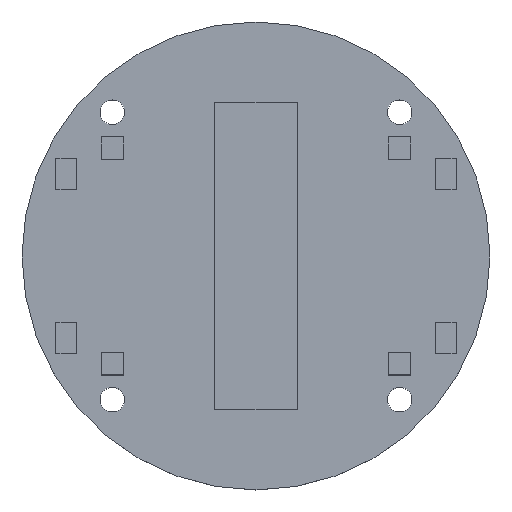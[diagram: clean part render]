
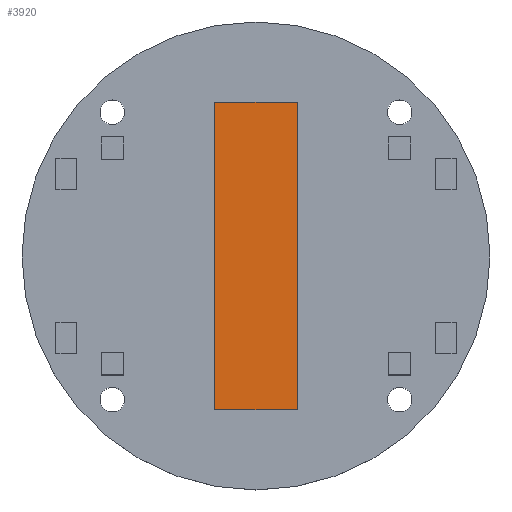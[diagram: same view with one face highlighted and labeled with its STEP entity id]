
A CAD part, top view. The second image highlights one B-rep face of the part: STEP entity #3920.
In plain terms, the highlighted planar face has unit normal (0, 0, 1).
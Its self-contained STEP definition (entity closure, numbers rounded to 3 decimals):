
#799 = PLANE('',#800);
#800 = AXIS2_PLACEMENT_3D('',#801,#802,#803);
#801 = CARTESIAN_POINT('',(-4.,-15.,1.79));
#802 = DIRECTION('',(0.,1.,0.));
#803 = DIRECTION('',(0.,0.,1.));
#825 = PLANE('',#826);
#826 = AXIS2_PLACEMENT_3D('',#827,#828,#829);
#827 = CARTESIAN_POINT('',(-4.,-15.,1.79));
#828 = DIRECTION('',(1.,0.,0.));
#829 = DIRECTION('',(0.,0.,1.));
#851 = PLANE('',#852);
#852 = AXIS2_PLACEMENT_3D('',#853,#854,#855);
#853 = CARTESIAN_POINT('',(-4.,15.,1.79));
#854 = DIRECTION('',(0.,1.,0.));
#855 = DIRECTION('',(0.,0.,1.));
#875 = PLANE('',#876);
#876 = AXIS2_PLACEMENT_3D('',#877,#878,#879);
#877 = CARTESIAN_POINT('',(4.,-15.,1.79));
#878 = DIRECTION('',(1.,0.,0.));
#879 = DIRECTION('',(0.,0.,1.));
#2558 = VERTEX_POINT('',#2559);
#2559 = CARTESIAN_POINT('',(4.,-15.,1.79));
#2580 = EDGE_CURVE('',#2581,#2558,#2583,.T.);
#2581 = VERTEX_POINT('',#2582);
#2582 = CARTESIAN_POINT('',(-4.,-15.,1.79));
#2583 = SURFACE_CURVE('',#2584,(#2588,#2595),.PCURVE_S1.);
#2584 = LINE('',#2585,#2586);
#2585 = CARTESIAN_POINT('',(-4.,-15.,1.79));
#2586 = VECTOR('',#2587,1.);
#2587 = DIRECTION('',(1.,0.,0.));
#2588 = PCURVE('',#799,#2589);
#2589 = DEFINITIONAL_REPRESENTATION('',(#2590),#2594);
#2590 = LINE('',#2591,#2592);
#2591 = CARTESIAN_POINT('',(0.,0.));
#2592 = VECTOR('',#2593,1.);
#2593 = DIRECTION('',(0.,1.));
#2594 = ( GEOMETRIC_REPRESENTATION_CONTEXT(2) 
PARAMETRIC_REPRESENTATION_CONTEXT() REPRESENTATION_CONTEXT('2D SPACE',''
  ) );
#2595 = PCURVE('',#2596,#2601);
#2596 = PLANE('',#2597);
#2597 = AXIS2_PLACEMENT_3D('',#2598,#2599,#2600);
#2598 = CARTESIAN_POINT('',(-4.,-15.,1.79));
#2599 = DIRECTION('',(0.,0.,1.));
#2600 = DIRECTION('',(1.,0.,0.));
#2601 = DEFINITIONAL_REPRESENTATION('',(#2602),#2606);
#2602 = LINE('',#2603,#2604);
#2603 = CARTESIAN_POINT('',(0.,0.));
#2604 = VECTOR('',#2605,1.);
#2605 = DIRECTION('',(1.,0.));
#2606 = ( GEOMETRIC_REPRESENTATION_CONTEXT(2) 
PARAMETRIC_REPRESENTATION_CONTEXT() REPRESENTATION_CONTEXT('2D SPACE',''
  ) );
#2634 = EDGE_CURVE('',#2558,#2635,#2637,.T.);
#2635 = VERTEX_POINT('',#2636);
#2636 = CARTESIAN_POINT('',(4.,15.,1.79));
#2637 = SURFACE_CURVE('',#2638,(#2642,#2649),.PCURVE_S1.);
#2638 = LINE('',#2639,#2640);
#2639 = CARTESIAN_POINT('',(4.,-15.,1.79));
#2640 = VECTOR('',#2641,1.);
#2641 = DIRECTION('',(0.,1.,0.));
#2642 = PCURVE('',#875,#2643);
#2643 = DEFINITIONAL_REPRESENTATION('',(#2644),#2648);
#2644 = LINE('',#2645,#2646);
#2645 = CARTESIAN_POINT('',(0.,0.));
#2646 = VECTOR('',#2647,1.);
#2647 = DIRECTION('',(0.,-1.));
#2648 = ( GEOMETRIC_REPRESENTATION_CONTEXT(2) 
PARAMETRIC_REPRESENTATION_CONTEXT() REPRESENTATION_CONTEXT('2D SPACE',''
  ) );
#2649 = PCURVE('',#2596,#2650);
#2650 = DEFINITIONAL_REPRESENTATION('',(#2651),#2655);
#2651 = LINE('',#2652,#2653);
#2652 = CARTESIAN_POINT('',(8.,0.));
#2653 = VECTOR('',#2654,1.);
#2654 = DIRECTION('',(0.,1.));
#2655 = ( GEOMETRIC_REPRESENTATION_CONTEXT(2) 
PARAMETRIC_REPRESENTATION_CONTEXT() REPRESENTATION_CONTEXT('2D SPACE',''
  ) );
#2683 = EDGE_CURVE('',#2684,#2635,#2686,.T.);
#2684 = VERTEX_POINT('',#2685);
#2685 = CARTESIAN_POINT('',(-4.,15.,1.79));
#2686 = SURFACE_CURVE('',#2687,(#2691,#2698),.PCURVE_S1.);
#2687 = LINE('',#2688,#2689);
#2688 = CARTESIAN_POINT('',(-4.,15.,1.79));
#2689 = VECTOR('',#2690,1.);
#2690 = DIRECTION('',(1.,0.,0.));
#2691 = PCURVE('',#851,#2692);
#2692 = DEFINITIONAL_REPRESENTATION('',(#2693),#2697);
#2693 = LINE('',#2694,#2695);
#2694 = CARTESIAN_POINT('',(0.,0.));
#2695 = VECTOR('',#2696,1.);
#2696 = DIRECTION('',(0.,1.));
#2697 = ( GEOMETRIC_REPRESENTATION_CONTEXT(2) 
PARAMETRIC_REPRESENTATION_CONTEXT() REPRESENTATION_CONTEXT('2D SPACE',''
  ) );
#2698 = PCURVE('',#2596,#2699);
#2699 = DEFINITIONAL_REPRESENTATION('',(#2700),#2704);
#2700 = LINE('',#2701,#2702);
#2701 = CARTESIAN_POINT('',(0.,30.));
#2702 = VECTOR('',#2703,1.);
#2703 = DIRECTION('',(1.,0.));
#2704 = ( GEOMETRIC_REPRESENTATION_CONTEXT(2) 
PARAMETRIC_REPRESENTATION_CONTEXT() REPRESENTATION_CONTEXT('2D SPACE',''
  ) );
#2732 = EDGE_CURVE('',#2581,#2684,#2733,.T.);
#2733 = SURFACE_CURVE('',#2734,(#2738,#2745),.PCURVE_S1.);
#2734 = LINE('',#2735,#2736);
#2735 = CARTESIAN_POINT('',(-4.,-15.,1.79));
#2736 = VECTOR('',#2737,1.);
#2737 = DIRECTION('',(0.,1.,0.));
#2738 = PCURVE('',#825,#2739);
#2739 = DEFINITIONAL_REPRESENTATION('',(#2740),#2744);
#2740 = LINE('',#2741,#2742);
#2741 = CARTESIAN_POINT('',(0.,0.));
#2742 = VECTOR('',#2743,1.);
#2743 = DIRECTION('',(0.,-1.));
#2744 = ( GEOMETRIC_REPRESENTATION_CONTEXT(2) 
PARAMETRIC_REPRESENTATION_CONTEXT() REPRESENTATION_CONTEXT('2D SPACE',''
  ) );
#2745 = PCURVE('',#2596,#2746);
#2746 = DEFINITIONAL_REPRESENTATION('',(#2747),#2751);
#2747 = LINE('',#2748,#2749);
#2748 = CARTESIAN_POINT('',(0.,0.));
#2749 = VECTOR('',#2750,1.);
#2750 = DIRECTION('',(0.,1.));
#2751 = ( GEOMETRIC_REPRESENTATION_CONTEXT(2) 
PARAMETRIC_REPRESENTATION_CONTEXT() REPRESENTATION_CONTEXT('2D SPACE',''
  ) );
#3920 = ADVANCED_FACE('',(#3921),#2596,.T.);
#3921 = FACE_BOUND('',#3922,.T.);
#3922 = EDGE_LOOP('',(#3923,#3924,#3925,#3926));
#3923 = ORIENTED_EDGE('',*,*,#2732,.F.);
#3924 = ORIENTED_EDGE('',*,*,#2580,.T.);
#3925 = ORIENTED_EDGE('',*,*,#2634,.T.);
#3926 = ORIENTED_EDGE('',*,*,#2683,.F.);
